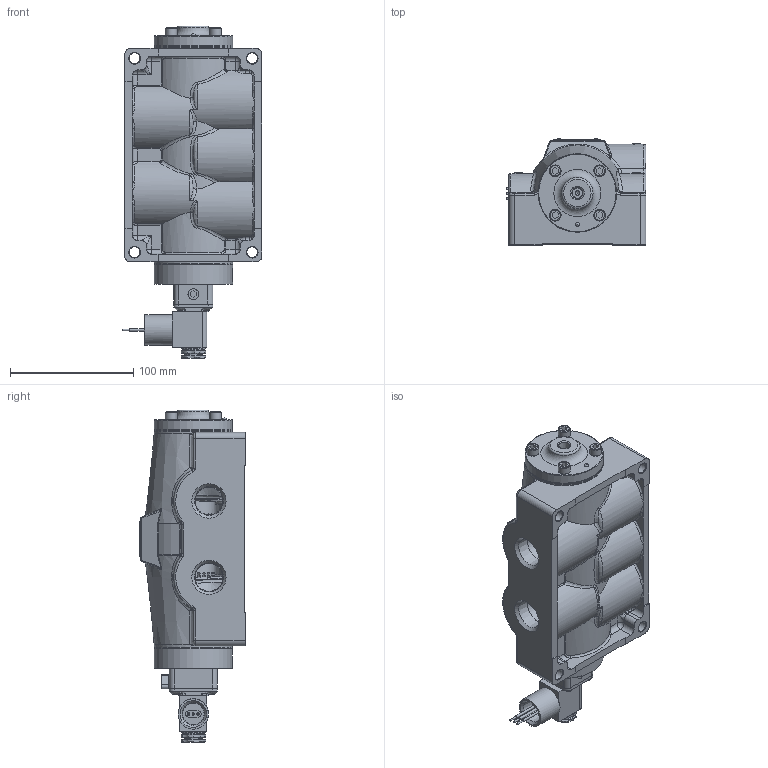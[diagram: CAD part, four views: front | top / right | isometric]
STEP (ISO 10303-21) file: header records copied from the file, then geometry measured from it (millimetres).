
FILE_DESCRIPTION(/* description */ (''),/* implementation_level */ '2;1');
FILE_NAME(/* name */ 'ESR6JOCZ.stp',/* time_stamp */ '2026-09-24T14:34:35-04:00',/* author */ ('rmckenna'),/* organization */ (''),/* preprocessor_version */ 'ST-DEVELOPER v20.2',/* originating_system */ 'Autodesk Inventor 2027',/* authorisation */ '');
FILE_SCHEMA (('AUTOMOTIVE_DESIGN { 1 0 10303 214 3 1 1 }'));
Products named in the file (1): Part24
Bounding box: 113.35 x 86.28 x 269.08 mm (x, y, z)
Volume: 1061329.6 mm3; surface area: 208924.8 mm2
Topology: 1 solids, 33 shells, 2545 faces, 6109 edges, 3737 vertices
Faces by surface type: plane 896, cylinder 678, bspline 339, cone 334, torus 209, sphere 89
Full cylindrical faces by diameter (mm): 1.168 x10, 1.3 x1, 1.397 x1, 1.5 x1, 1.524 x3, 2.032 x7, 2.07 x2, 2.261 x2, 2.35 x4, 2.388 x1, 2.5 x1, 2.778 x2, 2.8 x1, 3 x4, 3.048 x3, 3.175 x2, 3.4 x1, 3.683 x5, 3.962 x4, 4.191 x2, 4.826 x4, 4.978 x8, 5.15 x4, 5.156 x4, 5.5 x1, 5.556 x1, 6.35 x8, 6.65 x1, 6.747 x4, 7.137 x6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
Entity records: 100507 total; most frequent: CARTESIAN_POINT 40549, ORIENTED_EDGE 12058, DIRECTION 11573, EDGE_CURVE 6029, AXIS2_PLACEMENT_3D 4521, VERTEX_POINT 3736, EDGE_LOOP 2819, STYLED_ITEM 2546
